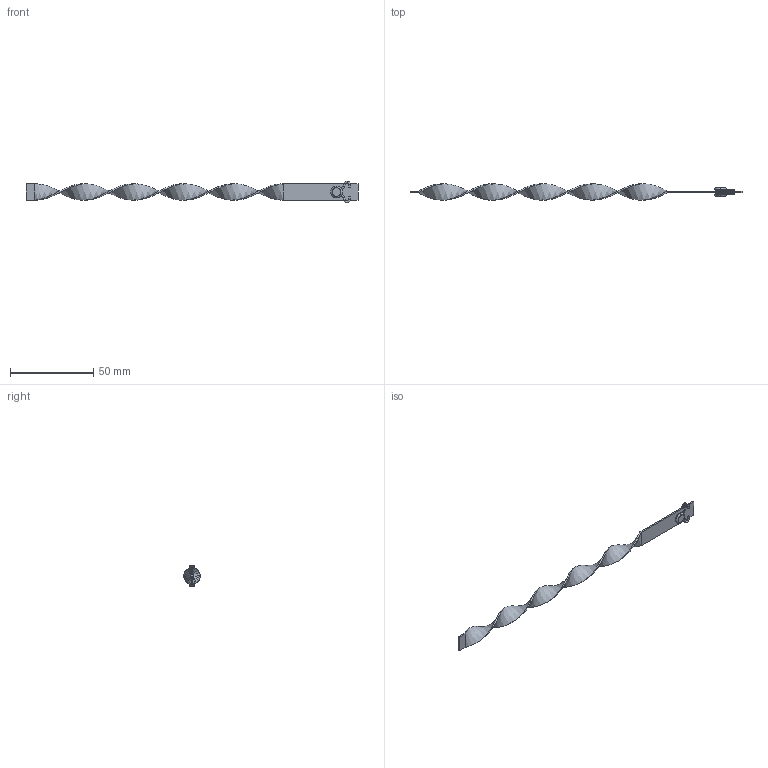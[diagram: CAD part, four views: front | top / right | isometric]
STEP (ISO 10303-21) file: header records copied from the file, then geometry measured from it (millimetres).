
FILE_DESCRIPTION (( 'STEP AP203' ), '1' );
FILE_NAME ('RLAS-10x200.STEP', '2015-12-10T16:31:21', ( 'Balzi' ), ( '' ), 'SwSTEP 2.0', 'SolidWorks 2015', '' );
FILE_SCHEMA (( 'CONFIG_CONTROL_DESIGN' ));
Length unit declared in the file: millimetre
Products named in the file (1): RLAS-10x200
Bounding box: 200 x 9.85 x 12.99 mm (x, y, z)
Volume: 2069.3 mm3; surface area: 4841.9 mm2
Topology: 5 solids, 5 shells, 92 faces, 178 edges, 96 vertices
Faces by surface type: torus 40, cylinder 30, plane 18, bspline 4
Entity records: 4051 total; most frequent: CARTESIAN_POINT 2063, DIRECTION 468, ORIENTED_EDGE 356, AXIS2_PLACEMENT_3D 209, EDGE_CURVE 178, CIRCLE 120, VERTEX_POINT 96, EDGE_LOOP 94
